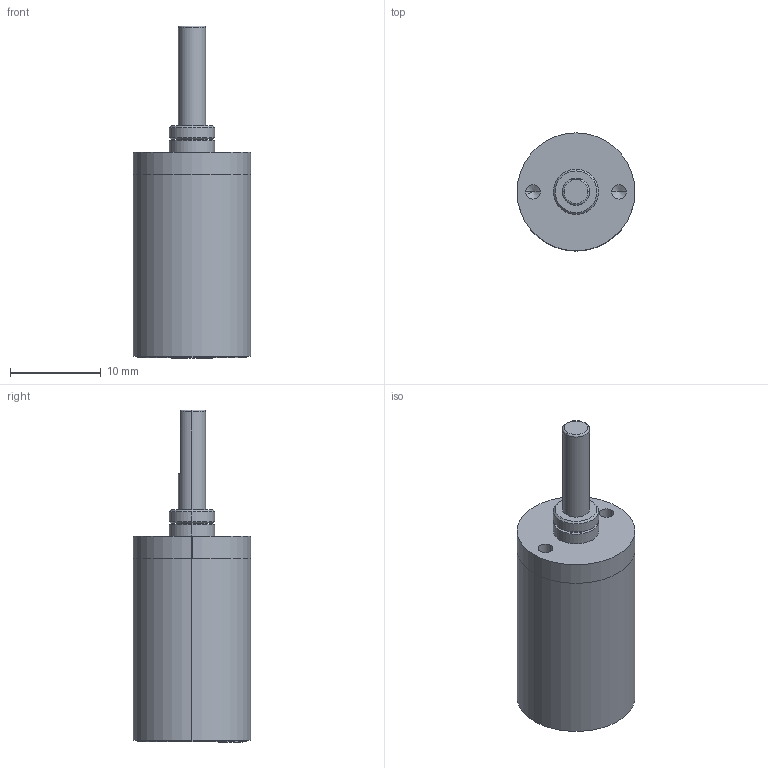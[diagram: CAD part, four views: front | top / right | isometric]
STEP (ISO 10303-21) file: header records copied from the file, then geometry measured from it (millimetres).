
FILE_DESCRIPTION (( 'STEP AP203' ), '1' );
FILE_NAME ('IG-13(I)-4stage.STEP', '2023-03-27T02:41:51', ( '' ), ( '' ), 'SwSTEP 2.0', 'SolidWorks 2019', '' );
FILE_SCHEMA (( 'CONFIG_CONTROL_DESIGN' ));
Length unit declared in the file: millimetre
Products named in the file (1): IG-13(I)-4stage
Bounding box: 13 x 13 x 36.6 mm (x, y, z)
Volume: 3402.1 mm3; surface area: 1825.2 mm2
Topology: 2 solids, 2 shells, 53 faces, 112 edges, 69 vertices
Faces by surface type: cylinder 28, plane 14, cone 8, torus 3
Entity records: 1514 total; most frequent: DIRECTION 281, CARTESIAN_POINT 249, ORIENTED_EDGE 216, AXIS2_PLACEMENT_3D 121, EDGE_CURVE 108, VERTEX_POINT 69, EDGE_LOOP 67, CIRCLE 67
